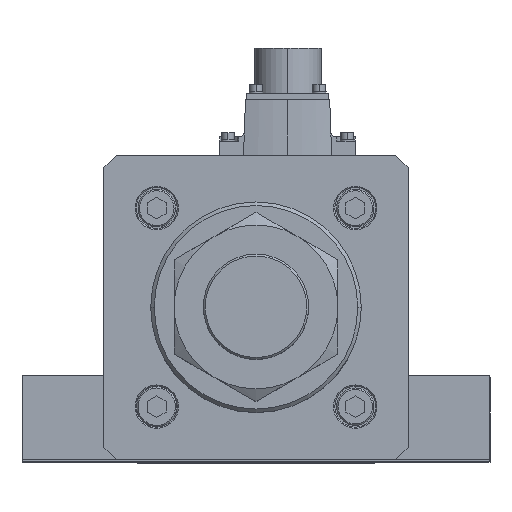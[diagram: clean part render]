
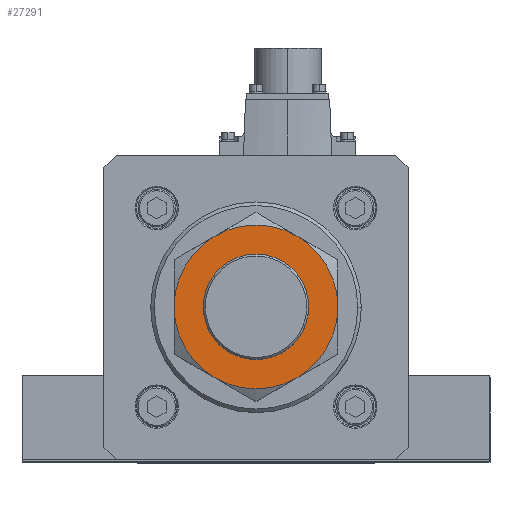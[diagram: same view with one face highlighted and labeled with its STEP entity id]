
A CAD part, top view. The second image highlights one B-rep face of the part: STEP entity #27291.
In plain terms, the highlighted planar face has unit normal (0, 0, 1).
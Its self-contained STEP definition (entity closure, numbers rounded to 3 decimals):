
#455 = DIRECTION ( 'NONE',  ( -1., 0., 0. ) ) ;
#1286 = ORIENTED_EDGE ( 'NONE', *, *, #34525, .F. ) ;
#1299 = VERTEX_POINT ( 'NONE', #4157 ) ;
#1528 = EDGE_CURVE ( 'NONE', #18419, #8583, #33630, .T. ) ;
#4157 = CARTESIAN_POINT ( 'NONE',  ( 35., 0., 27. ) ) ;
#5302 = ORIENTED_EDGE ( 'NONE', *, *, #1528, .F. ) ;
#5583 = CARTESIAN_POINT ( 'NONE',  ( 0., 0., 27. ) ) ;
#6040 = AXIS2_PLACEMENT_3D ( 'NONE', #35911, #6732, #27136 ) ;
#6178 = PLANE ( 'NONE',  #20439 ) ;
#6421 = EDGE_LOOP ( 'NONE', ( #21449, #28299, #5302, #27776, #1286, #37963 ) ) ;
#6732 = DIRECTION ( 'NONE',  ( 0., 0., 1. ) ) ;
#6915 = ORIENTED_EDGE ( 'NONE', *, *, #37295, .F. ) ;
#8381 = DIRECTION ( 'NONE',  ( -1., 0., 0. ) ) ;
#8392 = DIRECTION ( 'NONE',  ( 0., 0., -1. ) ) ;
#8583 = VERTEX_POINT ( 'NONE', #28644 ) ;
#9490 = CARTESIAN_POINT ( 'NONE',  ( 0., 0., 27. ) ) ;
#10191 = ORIENTED_EDGE ( 'NONE', *, *, #31987, .F. ) ;
#11532 = FACE_OUTER_BOUND ( 'NONE', #6421, .T. ) ;
#11858 = EDGE_CURVE ( 'NONE', #16659, #35655, #29156, .T. ) ;
#14724 = EDGE_CURVE ( 'NONE', #8583, #1299, #26602, .T. ) ;
#15162 = CARTESIAN_POINT ( 'NONE',  ( -22.5, 0., 27. ) ) ;
#15316 = DIRECTION ( 'NONE',  ( 1., 0., 0. ) ) ;
#15462 = DIRECTION ( 'NONE',  ( -1., 0., 0. ) ) ;
#16184 = FACE_BOUND ( 'NONE', #25226, .T. ) ;
#16659 = VERTEX_POINT ( 'NONE', #24830 ) ;
#18419 = VERTEX_POINT ( 'NONE', #30262 ) ;
#18668 = DIRECTION ( 'NONE',  ( 0., 0., -1. ) ) ;
#20165 = CARTESIAN_POINT ( 'NONE',  ( 22.5, 0., 27. ) ) ;
#20439 = AXIS2_PLACEMENT_3D ( 'NONE', #32352, #32615, #15316 ) ;
#21022 = CARTESIAN_POINT ( 'NONE',  ( 0., 0., 27. ) ) ;
#21449 = ORIENTED_EDGE ( 'NONE', *, *, #31778, .F. ) ;
#21902 = VERTEX_POINT ( 'NONE', #30308 ) ;
#21904 = EDGE_CURVE ( 'NONE', #21902, #18419, #30129, .T. ) ;
#23156 = CARTESIAN_POINT ( 'NONE',  ( 0., 0., 27. ) ) ;
#23496 = VERTEX_POINT ( 'NONE', #15162 ) ;
#23650 = CARTESIAN_POINT ( 'NONE',  ( 0., 0., 27. ) ) ;
#24830 = CARTESIAN_POINT ( 'NONE',  ( 17.5, -30.311, 27. ) ) ;
#24920 = CIRCLE ( 'NONE', #30080, 35. ) ;
#25052 = AXIS2_PLACEMENT_3D ( 'NONE', #37213, #25171, #31102 ) ;
#25169 = CARTESIAN_POINT ( 'NONE',  ( -17.5, -30.311, 27. ) ) ;
#25171 = DIRECTION ( 'NONE',  ( 0., 0., 1. ) ) ;
#25226 = EDGE_LOOP ( 'NONE', ( #6915, #10191 ) ) ;
#25542 = CIRCLE ( 'NONE', #28025, 35. ) ;
#26237 = AXIS2_PLACEMENT_3D ( 'NONE', #27739, #18668, #15462 ) ;
#26602 = CIRCLE ( 'NONE', #26762, 35. ) ;
#26762 = AXIS2_PLACEMENT_3D ( 'NONE', #9490, #33108, #30513 ) ;
#26786 = DIRECTION ( 'NONE',  ( 0., 0., -1. ) ) ;
#27136 = DIRECTION ( 'NONE',  ( 1., 0., 0. ) ) ;
#27291 = ADVANCED_FACE ( 'NONE', ( #11532, #16184 ), #6178, .T. ) ;
#27739 = CARTESIAN_POINT ( 'NONE',  ( 0., 0., 27. ) ) ;
#27776 = ORIENTED_EDGE ( 'NONE', *, *, #21904, .F. ) ;
#28025 = AXIS2_PLACEMENT_3D ( 'NONE', #21022, #32121, #8381 ) ;
#28299 = ORIENTED_EDGE ( 'NONE', *, *, #14724, .F. ) ;
#28644 = CARTESIAN_POINT ( 'NONE',  ( 17.5, 30.311, 27. ) ) ;
#29066 = DIRECTION ( 'NONE',  ( -1., 0., 0. ) ) ;
#29156 = CIRCLE ( 'NONE', #30653, 35. ) ;
#30080 = AXIS2_PLACEMENT_3D ( 'NONE', #5583, #8392, #29066 ) ;
#30129 = CIRCLE ( 'NONE', #26237, 35. ) ;
#30262 = CARTESIAN_POINT ( 'NONE',  ( -17.5, 30.311, 27. ) ) ;
#30308 = CARTESIAN_POINT ( 'NONE',  ( -35., 0., 27. ) ) ;
#30513 = DIRECTION ( 'NONE',  ( -1., 0., 0. ) ) ;
#30653 = AXIS2_PLACEMENT_3D ( 'NONE', #23650, #26786, #455 ) ;
#31102 = DIRECTION ( 'NONE',  ( 1., 0., 0. ) ) ;
#31778 = EDGE_CURVE ( 'NONE', #1299, #16659, #25542, .T. ) ;
#31829 = DIRECTION ( 'NONE',  ( 0., 0., -1. ) ) ;
#31987 = EDGE_CURVE ( 'NONE', #36451, #23496, #38022, .T. ) ;
#32121 = DIRECTION ( 'NONE',  ( 0., 0., -1. ) ) ;
#32352 = CARTESIAN_POINT ( 'NONE',  ( 0., 0., 27. ) ) ;
#32553 = CIRCLE ( 'NONE', #6040, 22.5 ) ;
#32615 = DIRECTION ( 'NONE',  ( 0., 0., 1. ) ) ;
#33108 = DIRECTION ( 'NONE',  ( 0., 0., -1. ) ) ;
#33630 = CIRCLE ( 'NONE', #38102, 35. ) ;
#34525 = EDGE_CURVE ( 'NONE', #35655, #21902, #24920, .T. ) ;
#34813 = DIRECTION ( 'NONE',  ( -1., 0., 0. ) ) ;
#35655 = VERTEX_POINT ( 'NONE', #25169 ) ;
#35911 = CARTESIAN_POINT ( 'NONE',  ( 0., 0., 27. ) ) ;
#36451 = VERTEX_POINT ( 'NONE', #20165 ) ;
#37213 = CARTESIAN_POINT ( 'NONE',  ( 0., 0., 27. ) ) ;
#37295 = EDGE_CURVE ( 'NONE', #23496, #36451, #32553, .T. ) ;
#37963 = ORIENTED_EDGE ( 'NONE', *, *, #11858, .F. ) ;
#38022 = CIRCLE ( 'NONE', #25052, 22.5 ) ;
#38102 = AXIS2_PLACEMENT_3D ( 'NONE', #23156, #31829, #34813 ) ;
